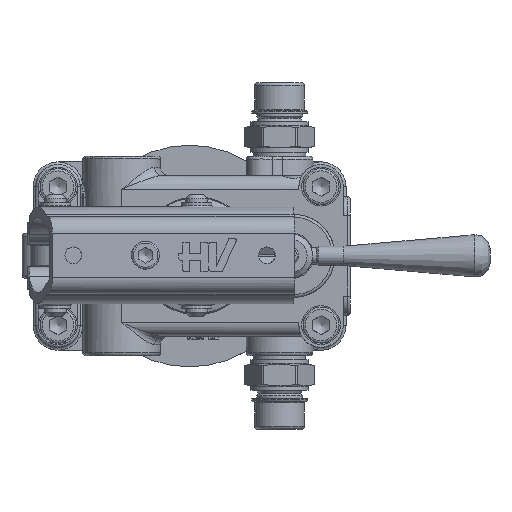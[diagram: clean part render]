
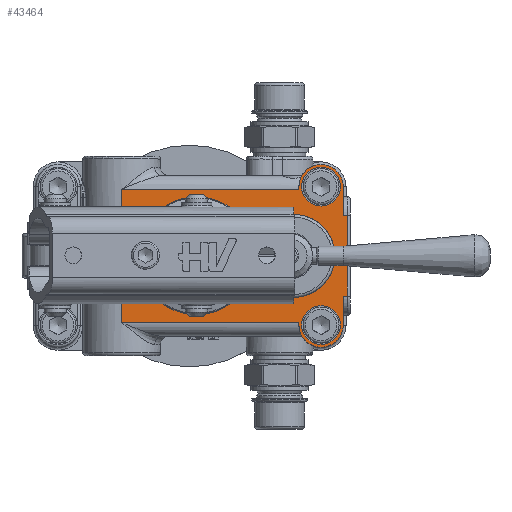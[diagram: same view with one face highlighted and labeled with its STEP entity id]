
A CAD part, top view. The second image highlights one B-rep face of the part: STEP entity #43464.
In plain terms, the highlighted planar face has unit normal (0, 0, 1).
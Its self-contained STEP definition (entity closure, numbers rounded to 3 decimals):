
#18936=CARTESIAN_POINT('',(53.272,52.118,43.));
#18937=VERTEX_POINT('',#18936);
#18938=CARTESIAN_POINT('',(59.,34.0,43.));
#18939=DIRECTION('',(0.,0.,-1.0));
#18940=DIRECTION('',(0.301,-0.953,0.));
#18941=AXIS2_PLACEMENT_3D('',#18938,#18939,#18940);
#18942=CIRCLE('',#18941,19.002);
#18943=EDGE_CURVE('',#18937,#18937,#18942,.T.);
#37495=CARTESIAN_POINT('',(111.,59.,43.));
#37496=VERTEX_POINT('',#37495);
#37497=CARTESIAN_POINT('',(104.,59.,43.));
#37498=DIRECTION('',(0.0,0.0,-1.0));
#37499=DIRECTION('',(1.0,0.0,0.0));
#37500=AXIS2_PLACEMENT_3D('',#37497,#37498,#37499);
#37501=CIRCLE('',#37500,7.);
#37502=EDGE_CURVE('',#37496,#37496,#37501,.T.);
#37535=CARTESIAN_POINT('',(111.0,9.,43.));
#37536=VERTEX_POINT('',#37535);
#37537=CARTESIAN_POINT('',(104.0,9.,43.));
#37538=DIRECTION('',(0.0,0.0,-1.0));
#37539=DIRECTION('',(1.0,0.0,0.0));
#37540=AXIS2_PLACEMENT_3D('',#37537,#37538,#37539);
#37541=CIRCLE('',#37540,7.);
#37542=EDGE_CURVE('',#37536,#37536,#37541,.T.);
#38819=CARTESIAN_POINT('',(112.,9.,43.));
#38820=VERTEX_POINT('',#38819);
#38827=CARTESIAN_POINT('',(96.0,9.,43.));
#38828=VERTEX_POINT('',#38827);
#38829=CARTESIAN_POINT('',(104.0,9.,43.));
#38830=DIRECTION('',(0.0,0.0,-1.0));
#38831=DIRECTION('',(-1.0,0.0,0.0));
#38832=AXIS2_PLACEMENT_3D('',#38829,#38830,#38831);
#38833=CIRCLE('',#38832,8.0);
#38834=EDGE_CURVE('',#38820,#38828,#38833,.T.);
#38962=CARTESIAN_POINT('',(83.0,23.802,43.));
#38963=VERTEX_POINT('',#38962);
#38971=CARTESIAN_POINT('',(83.0,44.198,43.));
#38972=VERTEX_POINT('',#38971);
#38973=CARTESIAN_POINT('',(94.,34.0,43.));
#38974=DIRECTION('',(0.0,0.0,-1.0));
#38975=DIRECTION('',(-1.0,0.0,0.0));
#38976=AXIS2_PLACEMENT_3D('',#38973,#38974,#38975);
#38977=CIRCLE('',#38976,15.0);
#38978=EDGE_CURVE('',#38972,#38963,#38977,.T.);
#38997=CARTESIAN_POINT('',(83.0,23.802,43.));
#38998=DIRECTION('',(0.0,1.0,0.0));
#38999=VECTOR('',#38998,20.396);
#39000=LINE('',#38997,#38999);
#39001=EDGE_CURVE('',#38963,#38972,#39000,.T.);
#39498=CARTESIAN_POINT('',(96.,59.,43.));
#39499=VERTEX_POINT('',#39498);
#39506=CARTESIAN_POINT('',(112.0,59.,43.));
#39507=VERTEX_POINT('',#39506);
#39508=CARTESIAN_POINT('',(104.,59.,43.));
#39509=DIRECTION('',(0.0,0.0,-1.0));
#39510=DIRECTION('',(1.0,0.0,0.0));
#39511=AXIS2_PLACEMENT_3D('',#39508,#39509,#39510);
#39512=CIRCLE('',#39511,8.0);
#39513=EDGE_CURVE('',#39499,#39507,#39512,.T.);
#39538=CARTESIAN_POINT('',(32.,58.,43.));
#39539=VERTEX_POINT('',#39538);
#39555=CARTESIAN_POINT('',(96.,58.,43.));
#39556=VERTEX_POINT('',#39555);
#39557=CARTESIAN_POINT('',(96.,58.,43.));
#39558=DIRECTION('',(-1.0,0.0,0.0));
#39559=VECTOR('',#39558,64.);
#39560=LINE('',#39557,#39559);
#39561=EDGE_CURVE('',#39556,#39539,#39560,.T.);
#40357=CARTESIAN_POINT('',(32.,44.122,43.));
#40358=VERTEX_POINT('',#40357);
#40369=CARTESIAN_POINT('',(32.0,44.122,43.0));
#40370=DIRECTION('',(0.0,1.0,0.0));
#40371=VECTOR('',#40370,13.878);
#40372=LINE('',#40369,#40371);
#40373=EDGE_CURVE('',#40358,#39539,#40372,.T.);
#41069=CARTESIAN_POINT('',(32.,10.0,43.));
#41070=VERTEX_POINT('',#41069);
#41539=CARTESIAN_POINT('',(32.,23.878,43.));
#41540=VERTEX_POINT('',#41539);
#41541=CARTESIAN_POINT('',(32.0,10.,43.0));
#41542=DIRECTION('',(0.0,1.0,0.0));
#41543=VECTOR('',#41542,13.878);
#41544=LINE('',#41541,#41543);
#41545=EDGE_CURVE('',#41070,#41540,#41544,.T.);
#41638=CARTESIAN_POINT('',(96.0,10.0,43.));
#41639=VERTEX_POINT('',#41638);
#41647=CARTESIAN_POINT('',(96.0,10.0,43.));
#41648=DIRECTION('',(-1.0,0.0,0.0));
#41649=VECTOR('',#41648,64.);
#41650=LINE('',#41647,#41649);
#41651=EDGE_CURVE('',#41639,#41070,#41650,.T.);
#42874=CARTESIAN_POINT('',(113.5,48.5,43.));
#42875=VERTEX_POINT('',#42874);
#42918=CARTESIAN_POINT('',(113.5,19.5,43.));
#42919=VERTEX_POINT('',#42918);
#42936=CARTESIAN_POINT('',(113.5,48.5,43.));
#42937=DIRECTION('',(0.0,-1.0,0.0));
#42938=VECTOR('',#42937,29.);
#42939=LINE('',#42936,#42938);
#42940=EDGE_CURVE('',#42875,#42919,#42939,.T.);
#43359=CARTESIAN_POINT('',(112.0,19.5,43.));
#43360=VERTEX_POINT('',#43359);
#43361=CARTESIAN_POINT('',(112.0,19.5,43.));
#43362=DIRECTION('',(1.0,0.0,0.0));
#43363=VECTOR('',#43362,1.5);
#43364=LINE('',#43361,#43363);
#43365=EDGE_CURVE('',#43360,#42919,#43364,.T.);
#43378=CARTESIAN_POINT('',(104.,34.,43.));
#43379=DIRECTION('',(0.0,0.0,1.0));
#43380=DIRECTION('',(1.0,0.0,0.0));
#43381=AXIS2_PLACEMENT_3D('',#43378,#43379,#43380);
#43382=PLANE('',#43381);
#43383=ORIENTED_EDGE('',*,*,#42940,.F.);
#43384=CARTESIAN_POINT('',(112.,48.5,43.));
#43385=VERTEX_POINT('',#43384);
#43386=CARTESIAN_POINT('',(112.,48.5,43.));
#43387=DIRECTION('',(1.0,0.0,0.0));
#43388=VECTOR('',#43387,1.5);
#43389=LINE('',#43386,#43388);
#43390=EDGE_CURVE('',#43385,#42875,#43389,.T.);
#43391=ORIENTED_EDGE('',*,*,#43390,.F.);
#43392=CARTESIAN_POINT('',(112.0,59.,43.));
#43393=DIRECTION('',(0.0,-1.0,0.0));
#43394=VECTOR('',#43393,10.5);
#43395=LINE('',#43392,#43394);
#43396=EDGE_CURVE('',#39507,#43385,#43395,.T.);
#43397=ORIENTED_EDGE('',*,*,#43396,.F.);
#43398=ORIENTED_EDGE('',*,*,#39513,.F.);
#43399=CARTESIAN_POINT('',(96.,58.,43.));
#43400=DIRECTION('',(0.0,1.0,0.0));
#43401=VECTOR('',#43400,1.);
#43402=LINE('',#43399,#43401);
#43403=EDGE_CURVE('',#39556,#39499,#43402,.T.);
#43404=ORIENTED_EDGE('',*,*,#43403,.F.);
#43405=ORIENTED_EDGE('',*,*,#39561,.T.);
#43406=ORIENTED_EDGE('',*,*,#40373,.F.);
#43407=CARTESIAN_POINT('',(33.732,41.0,43.));
#43408=VERTEX_POINT('',#43407);
#43409=CARTESIAN_POINT('',(33.732,41.0,43.));
#43410=CARTESIAN_POINT('',(33.732,41.528,43.));
#43411=CARTESIAN_POINT('',(33.438,42.767,43.));
#43412=CARTESIAN_POINT('',(32.582,43.719,43.));
#43413=CARTESIAN_POINT('',(32.,44.122,43.));
#43414=B_SPLINE_CURVE_WITH_KNOTS('',3,(#43409,#43410,#43411,#43412,#43413),.UNSPECIFIED.,.F.,.U.,(4,1,4),(2.696,2.855,3.066),.UNSPECIFIED.);
#43415=EDGE_CURVE('',#43408,#40358,#43414,.T.);
#43416=ORIENTED_EDGE('',*,*,#43415,.F.);
#43417=CARTESIAN_POINT('',(33.732,27.,43.));
#43418=VERTEX_POINT('',#43417);
#43419=CARTESIAN_POINT('',(33.732,27.,43.));
#43420=DIRECTION('',(0.0,1.0,0.0));
#43421=VECTOR('',#43420,14.);
#43422=LINE('',#43419,#43421);
#43423=EDGE_CURVE('',#43418,#43408,#43422,.T.);
#43424=ORIENTED_EDGE('',*,*,#43423,.F.);
#43425=CARTESIAN_POINT('',(32.,23.878,43.));
#43426=CARTESIAN_POINT('',(32.433,24.178,43.));
#43427=CARTESIAN_POINT('',(33.336,25.067,43.));
#43428=CARTESIAN_POINT('',(33.732,26.29,43.0));
#43429=CARTESIAN_POINT('',(33.732,27.,43.));
#43430=B_SPLINE_CURVE_WITH_KNOTS('',3,(#43425,#43426,#43427,#43428,#43429),.UNSPECIFIED.,.F.,.U.,(4,1,4),(2.696,2.854,3.065),.UNSPECIFIED.);
#43431=EDGE_CURVE('',#41540,#43418,#43430,.T.);
#43432=ORIENTED_EDGE('',*,*,#43431,.F.);
#43433=ORIENTED_EDGE('',*,*,#41545,.F.);
#43434=ORIENTED_EDGE('',*,*,#41651,.F.);
#43435=CARTESIAN_POINT('',(96.,9.,43.));
#43436=DIRECTION('',(0.0,1.0,0.0));
#43437=VECTOR('',#43436,1.);
#43438=LINE('',#43435,#43437);
#43439=EDGE_CURVE('',#38828,#41639,#43438,.T.);
#43440=ORIENTED_EDGE('',*,*,#43439,.F.);
#43441=ORIENTED_EDGE('',*,*,#38834,.F.);
#43442=CARTESIAN_POINT('',(112.,19.5,43.));
#43443=DIRECTION('',(0.0,-1.0,0.0));
#43444=VECTOR('',#43443,10.5);
#43445=LINE('',#43442,#43444);
#43446=EDGE_CURVE('',#43360,#38820,#43445,.T.);
#43447=ORIENTED_EDGE('',*,*,#43446,.F.);
#43448=ORIENTED_EDGE('',*,*,#43365,.T.);
#43449=EDGE_LOOP('',(#43383,#43391,#43397,#43398,#43404,#43405,#43406,#43416,#43424,#43432,#43433,#43434,#43440,#43441,#43447,#43448));
#43450=FACE_OUTER_BOUND('',#43449,.T.);
#43451=ORIENTED_EDGE('',*,*,#18943,.T.);
#43452=EDGE_LOOP('',(#43451));
#43453=FACE_BOUND('',#43452,.T.);
#43454=ORIENTED_EDGE('',*,*,#37502,.T.);
#43455=EDGE_LOOP('',(#43454));
#43456=FACE_BOUND('',#43455,.T.);
#43457=ORIENTED_EDGE('',*,*,#37542,.T.);
#43458=EDGE_LOOP('',(#43457));
#43459=FACE_BOUND('',#43458,.T.);
#43460=ORIENTED_EDGE('',*,*,#38978,.T.);
#43461=ORIENTED_EDGE('',*,*,#39001,.T.);
#43462=EDGE_LOOP('',(#43460,#43461));
#43463=FACE_BOUND('',#43462,.T.);
#43464=ADVANCED_FACE('',(#43450,#43453,#43456,#43459,#43463),#43382,.T.);
